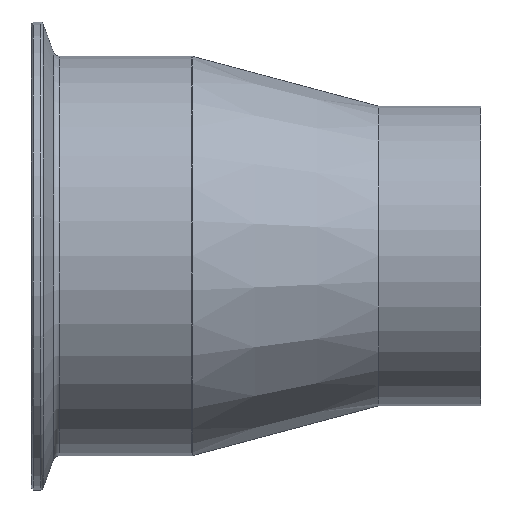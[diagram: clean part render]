
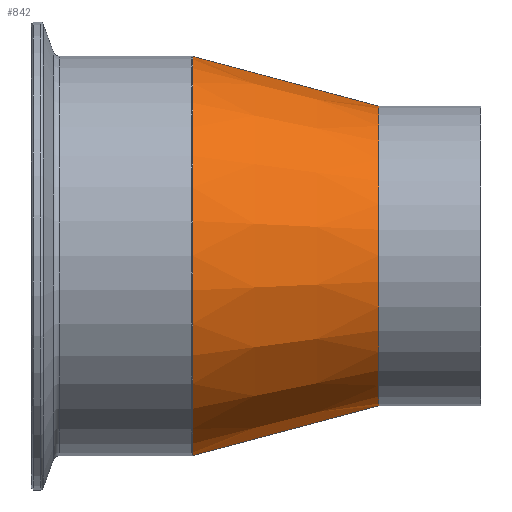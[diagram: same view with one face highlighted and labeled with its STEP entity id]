
A CAD part, top view. The second image highlights one B-rep face of the part: STEP entity #842.
In plain terms, the highlighted conical face has half-angle 15 degrees and reference radius 38.1 mm.
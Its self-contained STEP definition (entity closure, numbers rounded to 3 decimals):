
#34 = VERTEX_POINT ( 'NONE', #225 ) ;
#107 = VECTOR ( 'NONE', #221, 1000. ) ;
#139 = LINE ( 'NONE', #748, #107 ) ;
#142 = CARTESIAN_POINT ( 'NONE',  ( -26., 0., 0. ) ) ;
#145 = AXIS2_PLACEMENT_3D ( 'NONE', #240, #846, #335 ) ;
#146 = ORIENTED_EDGE ( 'NONE', *, *, #297, .T. ) ;
#221 = DIRECTION ( 'NONE',  ( -0.966, 0.259, 0. ) ) ;
#225 = CARTESIAN_POINT ( 'NONE',  ( -73.295, -50.773, 0. ) ) ;
#231 = EDGE_LOOP ( 'NONE', ( #520, #556, #146, #435 ) ) ;
#240 = CARTESIAN_POINT ( 'NONE',  ( -73.295, 0., 0. ) ) ;
#258 = CARTESIAN_POINT ( 'NONE',  ( -26., -38.1, 0. ) ) ;
#297 = EDGE_CURVE ( 'NONE', #484, #34, #1045, .T. ) ;
#335 = DIRECTION ( 'NONE',  ( 0., 1., 0. ) ) ;
#357 = FACE_OUTER_BOUND ( 'NONE', #231, .T. ) ;
#365 = DIRECTION ( 'NONE',  ( 0., -1., 0. ) ) ;
#384 = CARTESIAN_POINT ( 'NONE',  ( -26., -38.1, 0. ) ) ;
#386 = DIRECTION ( 'NONE',  ( -0.966, -0.259, 0. ) ) ;
#435 = ORIENTED_EDGE ( 'NONE', *, *, #775, .F. ) ;
#471 = CARTESIAN_POINT ( 'NONE',  ( -26., 38.1, 0. ) ) ;
#475 = VERTEX_POINT ( 'NONE', #258 ) ;
#476 = DIRECTION ( 'NONE',  ( -1., 0., 0. ) ) ;
#484 = VERTEX_POINT ( 'NONE', #789 ) ;
#520 = ORIENTED_EDGE ( 'NONE', *, *, #906, .F. ) ;
#532 = CARTESIAN_POINT ( 'NONE',  ( -26., 0., 0. ) ) ;
#556 = ORIENTED_EDGE ( 'NONE', *, *, #677, .T. ) ;
#644 = VECTOR ( 'NONE', #386, 1000. ) ;
#674 = LINE ( 'NONE', #384, #644 ) ;
#677 = EDGE_CURVE ( 'NONE', #1021, #484, #139, .T. ) ;
#747 = DIRECTION ( 'NONE',  ( 1., 0., 0. ) ) ;
#748 = CARTESIAN_POINT ( 'NONE',  ( -26., 38.1, 0. ) ) ;
#754 = DIRECTION ( 'NONE',  ( 0., 1., 0. ) ) ;
#767 = CIRCLE ( 'NONE', #929, 38.1 ) ;
#775 = EDGE_CURVE ( 'NONE', #475, #34, #674, .T. ) ;
#789 = CARTESIAN_POINT ( 'NONE',  ( -73.295, 50.773, 0. ) ) ;
#842 = ADVANCED_FACE ( 'NONE', ( #357 ), #975, .T. ) ;
#846 = DIRECTION ( 'NONE',  ( 1., 0., 0. ) ) ;
#906 = EDGE_CURVE ( 'NONE', #1021, #475, #767, .T. ) ;
#929 = AXIS2_PLACEMENT_3D ( 'NONE', #142, #747, #754 ) ;
#941 = AXIS2_PLACEMENT_3D ( 'NONE', #532, #476, #365 ) ;
#975 = CONICAL_SURFACE ( 'NONE', #941, 38.1, 0.262 ) ;
#1021 = VERTEX_POINT ( 'NONE', #471 ) ;
#1045 = CIRCLE ( 'NONE', #145, 50.773 ) ;
